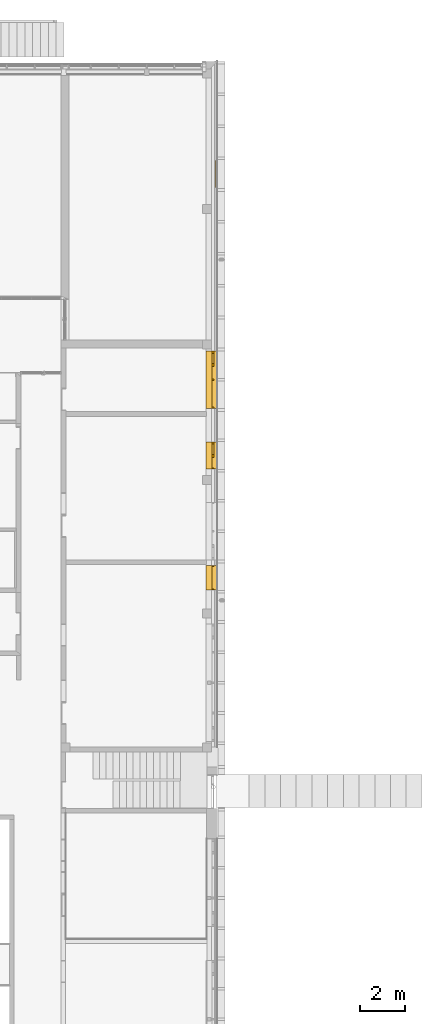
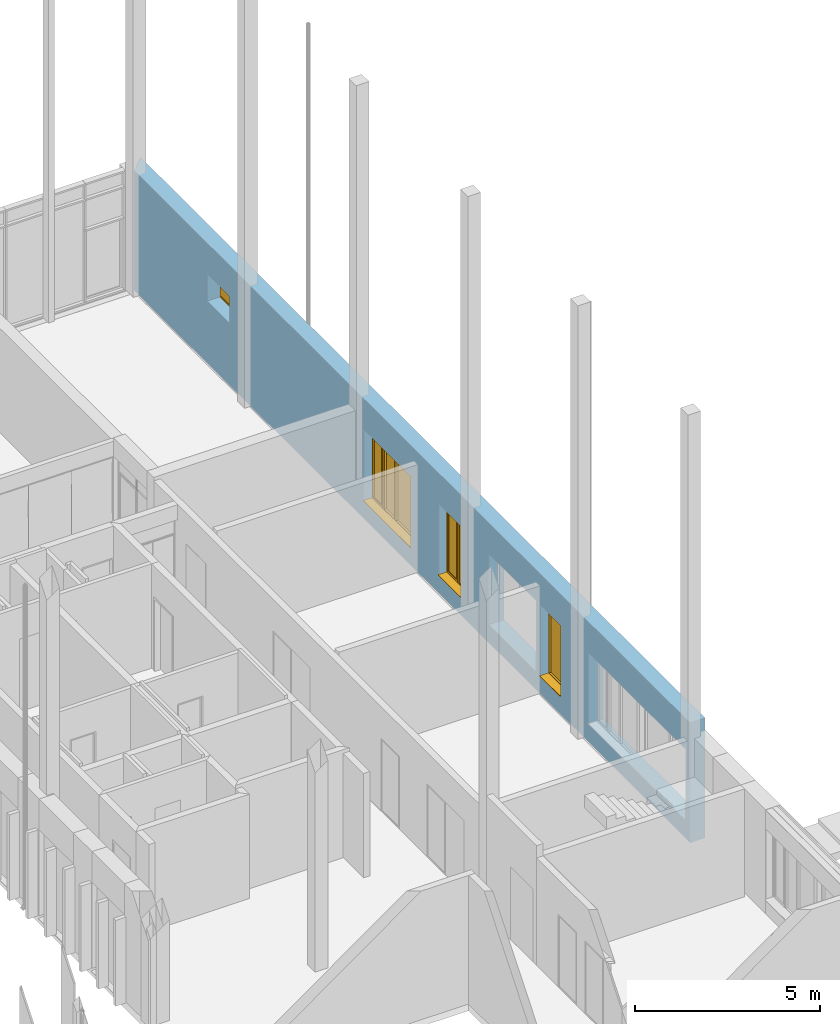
# One storey, part 42 of 89: 4 windows, 6 openings, plus 1 element that does not belong to this part.
"""IFC2X3 building model written with IfcOpenShell, lengths in millimetres."""

from ifc_helpers import new_model, entity, si_unit, converted_unit, derived_unit, money_unit, direction, frame, origin_with_axes, origin_2d_with_axis, place, context, subcontext, project, spatial, polyline, rectangle, outline, extrude, open_shell, faceted_brep, surface_model, material, layer, layer_set, layer_usage, type_object, element, fill, save


model = new_model("IFC2X3")

# Units and contexts
model_context = context("Model", 3, precision=0.01, world=origin_with_axes(), true_north=direction((0.0, 1.0)))
body_context = subcontext(model_context, "Body", "Model", "MODEL_VIEW")
ifc_project = project(units=[si_unit("LENGTHUNIT", "METRE", prefix="MILLI"), si_unit("AREAUNIT", "SQUARE_METRE"), si_unit("VOLUMEUNIT", "CUBIC_METRE"), converted_unit("PLANEANGLEUNIT", "DEGREE", entity("IfcPlaneAngleMeasure", 0.0174532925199), si_unit("PLANEANGLEUNIT", "RADIAN"), dimensions=[0, 0, 0, 0, 0, 0, 0]), si_unit("SOLIDANGLEUNIT", "STERADIAN"), money_unit("EUR"), converted_unit("TIMEUNIT", "Year", entity("IfcTimeMeasure", 31556926.0), si_unit("TIMEUNIT", "SECOND"), dimensions=[0, 0, 1, 0, 0, 0, 0]), si_unit("MASSUNIT", "GRAM", prefix="KILO"), si_unit("THERMODYNAMICTEMPERATUREUNIT", "DEGREE_CELSIUS"), si_unit("LUMINOUSINTENSITYUNIT", "LUMEN"), si_unit("ENERGYUNIT", "JOULE", prefix="MEGA"), derived_unit("THERMALCONDUCTANCEUNIT", [(si_unit("POWERUNIT", "WATT"), 1), (si_unit("LENGTHUNIT", "METRE"), -1), (si_unit("THERMODYNAMICTEMPERATUREUNIT", "KELVIN"), -1)]), derived_unit("SPECIFICHEATCAPACITYUNIT", [(si_unit("ENERGYUNIT", "JOULE"), 1), (si_unit("MASSUNIT", "GRAM", prefix="KILO"), -1), (si_unit("THERMODYNAMICTEMPERATUREUNIT", "KELVIN"), -1)]), derived_unit("MASSDENSITYUNIT", [(si_unit("MASSUNIT", "GRAM", prefix="KILO"), 1), (si_unit("VOLUMEUNIT", "CUBIC_METRE"), -1)])], contexts=[model_context])

# Site, building, storey
site_placement = place(None, origin_with_axes())
site = spatial("IfcSite", under=ifc_project, at=site_placement, Name="Puškini 31, Narva", CompositionType="ELEMENT")
building_placement = place(site_placement, origin_with_axes())
building = spatial("IfcBuilding", under=site, at=building_placement, Name="Narva Riigigümnaasium", CompositionType="ELEMENT")
storey_placement = place(building_placement, frame((0.0, 0.0, -3300.0), z_axis=(0.0, 0.0, 1.0), x_axis=(1.0, 0.0, 0.0)))
storey = spatial("IfcBuildingStorey", under=building, at=storey_placement, Name="1.korrus -3.3", CompositionType="ELEMENT", Elevation=-3300.0)

# Wall, openings, windows
ifc_material_1 = material(Name="fassaadiplaat")
ifc_layer_1 = layer(ifc_material_1, 8.0, ventilated="UNKNOWN")
ifc_material_2 = material(Name="Salto-roovitus")
ifc_layer_2 = layer(ifc_material_2, 50.0, ventilated="UNKNOWN")
ifc_material_3 = material(Name="Salto-PIR soojustus")
ifc_layer_3 = layer(ifc_material_3, 50.0, ventilated="UNKNOWN")
ifc_layer_4 = layer(ifc_material_3, 150.0, ventilated="UNKNOWN")
ifc_material_4 = material(Name="Betoon element")
ifc_layer_5 = layer(ifc_material_4, 200.0, ventilated="UNKNOWN")
ifc_material_5 = material(Name="Salto-siseviimistlus-seinad")
ifc_layer_6 = layer(ifc_material_5, 10.0, ventilated="UNKNOWN")
ifc_layer_set = layer_set([ifc_layer_1, ifc_layer_2, ifc_layer_3, ifc_layer_4, ifc_layer_5, ifc_layer_6], Name="G-VS-01")
ifc_layer_usage = layer_usage(ifc_layer_set, "AXIS2", "NEGATIVE", 458.0)
wall_type = type_object("IfcWallType", Name="G-VS-01 468", PredefinedType="NOTDEFINED")
wall_placement = place(storey_placement, frame((54000.0000017, 254108.805854, 0.0), z_axis=(0.0, 0.0, 1.0), x_axis=(0.0, -1.0, 0.0)))
wall = element("IfcWallStandardCase", 1, at=wall_placement, inside=storey, type_object=wall_type, material=ifc_layer_usage, Name="Välissein", context=body_context, shape_type="SweptSolid", body=[
    extrude(outline(polyline([(9.99999999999, -10.0), (30098.8058544, -10.0), (30098.8058544, 458.0), (-458.0, 458.0), (9.99999999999, -10.0)])), origin_with_axes(), (0.0, 0.0, 1.0), 3959.99999955),
])
opening_1_placement = place(wall_placement, frame((27228.5691061, 0.0, 600.0), z_axis=(0.0, 0.0, 1.0), x_axis=(1.0, 0.0, 0.0)))
element("IfcOpeningElement", 2, at=opening_1_placement, cuts=wall, Name="G-A-25", context=body_context, shape_type="SweptSolid", body=[
    extrude(rectangle(XDim=5250.0, YDim=2340.0, at=origin_2d_with_axis()), frame((0.0, 308.0, 1170.0), z_axis=(0.0, -1.0, 0.0), x_axis=(1.0, 0.0, 0.0)), (0.0, 0.0, 1.0), 786.0),
    extrude(rectangle(XDim=5250.0, YDim=2340.0, at=origin_2d_with_axis()), frame((0.0, 308.0, 1170.0), z_axis=(0.0, 1.0, 0.0), x_axis=(1.0, 0.0, 0.0)), (0.0, 0.0, 1.0), 618.0),
])
opening_2_placement = place(wall_placement, frame((20478.5691061, 0.0, 600.0), z_axis=(0.0, 0.0, 1.0), x_axis=(1.0, 0.0, 0.0)))
element("IfcOpeningElement", 3, at=opening_2_placement, cuts=wall, Name="G-A-15", context=body_context, shape_type="SweptSolid", body=[
    extrude(rectangle(XDim=2550.0, YDim=2340.0, at=origin_2d_with_axis()), frame((0.0, 308.0, 1170.0), z_axis=(0.0, 1.0, 0.0), x_axis=(-1.0, 0.0, 0.0)), (0.0, 0.0, -1.0), 786.0),
    extrude(rectangle(XDim=2550.0, YDim=2340.0, at=origin_2d_with_axis()), frame((0.0, 308.0, 1170.0), z_axis=(0.0, -1.0, 0.0), x_axis=(-1.0, 0.0, 0.0)), (0.0, 0.0, -1.0), 618.0),
])
opening_3_placement = place(wall_placement, frame((17103.5691061, 0.0, 600.0), z_axis=(0.0, 0.0, 1.0), x_axis=(1.0, 0.0, 0.0)))
opening_3 = element("IfcOpeningElement", 4, at=opening_3_placement, cuts=wall, Name="G-A-06", context=body_context, shape_type="SweptSolid", body=[
    extrude(rectangle(XDim=1200.0, YDim=2340.0, at=origin_2d_with_axis()), frame((0.0, 308.0, 1170.0), z_axis=(0.0, -1.0, 0.0), x_axis=(1.0, 0.0, 0.0)), (0.0, 0.0, 1.0), 786.0),
    extrude(rectangle(XDim=1200.0, YDim=2340.0, at=origin_2d_with_axis()), frame((0.0, 308.0, 1170.0), z_axis=(0.0, 1.0, 0.0), x_axis=(1.0, 0.0, 0.0)), (0.0, 0.0, 1.0), 618.0),
])
opening_4_placement = place(wall_placement, frame((13728.5691061, 0.0, 600.0), z_axis=(0.0, 0.0, 1.0), x_axis=(1.0, 0.0, 0.0)))
opening_4 = element("IfcOpeningElement", 5, at=opening_4_placement, cuts=wall, Name="G-A-15", context=body_context, shape_type="SweptSolid", body=[
    extrude(rectangle(XDim=2550.0, YDim=2340.0, at=origin_2d_with_axis()), frame((0.0, 308.0, 1170.0), z_axis=(0.0, -1.0, 0.0), x_axis=(1.0, 0.0, 0.0)), (0.0, 0.0, 1.0), 786.0),
    extrude(rectangle(XDim=2550.0, YDim=2340.0, at=origin_2d_with_axis()), frame((0.0, 308.0, 1170.0), z_axis=(0.0, 1.0, 0.0), x_axis=(1.0, 0.0, 0.0)), (0.0, 0.0, 1.0), 618.0),
])
opening_5_placement = place(wall_placement, frame((22553.5691061, 0.0, 600.0), z_axis=(0.0, 0.0, 1.0), x_axis=(1.0, 0.0, 0.0)))
opening_5 = element("IfcOpeningElement", 6, at=opening_5_placement, cuts=wall, Name="G-A-35", context=body_context, shape_type="SweptSolid", body=[
    extrude(rectangle(XDim=1100.0, YDim=2340.0, at=origin_2d_with_axis()), frame((0.0, 308.0, 1170.0), z_axis=(0.0, -1.0, 0.0), x_axis=(1.0, 0.0, 0.0)), (0.0, 0.0, 1.0), 786.0),
    extrude(rectangle(XDim=1100.0, YDim=2340.0, at=origin_2d_with_axis()), frame((0.0, 308.0, 1170.0), z_axis=(0.0, 1.0, 0.0), x_axis=(1.0, 0.0, 0.0)), (0.0, 0.0, 1.0), 618.0),
])
opening_6_placement = place(wall_placement, frame((4563.8084994, 0.0, 2049.99999046), z_axis=(0.0, 0.0, 1.0), x_axis=(1.0, 0.0, 0.0)))
opening_6 = element("IfcOpeningElement", 7, at=opening_6_placement, cuts=wall, Name="G-SL-02", context=body_context, shape_type="SweptSolid", body=[
    extrude(rectangle(XDim=1190.0, YDim=890.0, at=origin_2d_with_axis()), frame((0.0, -468.0, 445.0), z_axis=(0.0, -1.0, 0.0), x_axis=(-1.0, 0.0, 0.0)), (0.0, 0.0, -1.0), 1404.0),
])
window_style_1 = type_object("IfcWindowStyle", Name="Horizontal Multi-Sash Window 23", ConstructionType="NOTDEFINED", OperationType="SINGLE_PANEL", ParameterTakesPrecedence=False, Sizeable=False)
window_1_placement = place(opening_6_placement, frame((-595.0, 0.0, 0.0), z_axis=(0.0, 0.0, 1.0), x_axis=(1.0, 0.0, 0.0)))
window_1 = element("IfcWindow", 8, at=window_1_placement, inside=storey, type_object=window_style_1, Name="G-SL-02", ObjectType="WINDOW", OverallHeight=890.0, OverallWidth=1190.0, context=body_context, shape_type="Brep", body=[
    faceted_brep([(1150.0, 458.0, 840.0), (1150.0, 388.0, 840.0), (1140.0, 388.0, 840.0), (1140.0, 383.0, 840.0), (1190.0, 383.0, 840.0), (1190.0, 458.0, 840.0), (1150.0, 458.0, 50.0), (1150.0, 388.0, 50.0), (1140.0, 388.0, 50.0), (1140.0, 383.0, 50.0), (1190.0, 383.0, 50.0), (1190.0, 458.0, 50.0)], [[[0, 1, 2, 3, 4, 5]], [[1, 0, 6, 7]], [[8, 2, 1, 7]], [[2, 8, 9, 3]], [[4, 3, 9, 10]], [[5, 4, 10, 11]], [[6, 0, 5, 11]], [[7, 6, 11, 10, 9, 8]]]),
    faceted_brep([(50.0, 388.0, 840.0), (40.0, 388.0, 840.0), (40.0, 458.0, 840.0), (0.0, 458.0, 840.0), (0.0, 383.0, 840.0), (50.0, 383.0, 840.0), (50.0, 388.0, 50.0), (40.0, 388.0, 50.0), (40.0, 458.0, 50.0), (0.0, 458.0, 50.0), (0.0, 383.0, 50.0), (50.0, 383.0, 50.0)], [[[0, 1, 2, 3, 4, 5]], [[1, 0, 6, 7]], [[8, 2, 1, 7]], [[2, 8, 9, 3]], [[9, 10, 4, 3]], [[10, 11, 5, 4]], [[6, 0, 5, 11]], [[7, 6, 11, 10, 9, 8]]]),
    faceted_brep([(1150.0, 458.0, 840.0), (1150.0, 458.0, 850.0), (40.0, 458.0, 850.0), (40.0, 458.0, 840.0), (0.0, 458.0, 840.0), (0.0, 458.0, 890.0), (1190.0, 458.0, 890.0), (1190.0, 458.0, 840.0), (1150.0, 388.0, 840.0), (1150.0, 388.0, 850.0), (40.0, 388.0, 850.0), (40.0, 388.0, 840.0), (50.0, 388.0, 840.0), (50.0, 383.0, 840.0), (0.0, 383.0, 840.0), (0.0, 383.0, 890.0), (1190.0, 383.0, 890.0), (1190.0, 383.0, 840.0), (1140.0, 383.0, 840.0), (1140.0, 388.0, 840.0)], [[[0, 1, 2, 3, 4, 5, 6, 7]], [[1, 0, 8, 9]], [[2, 1, 9, 10]], [[3, 2, 10, 11]], [[11, 12, 13, 14, 4, 3]], [[4, 14, 15, 5]], [[5, 15, 16, 6]], [[6, 16, 17, 7]], [[8, 0, 7, 17, 18, 19]], [[12, 11, 10, 9, 8, 19]], [[12, 19, 18, 13]], [[14, 13, 18, 17, 16, 15]]]),
    faceted_brep([(50.0, 388.0, 50.0), (40.0, 388.0, 50.0), (40.0, 458.0, 50.0), (0.0, 458.0, 50.0), (0.0, 383.0, 50.0), (50.0, 383.0, 50.0), (1140.0, 388.0, 50.0), (1150.0, 388.0, 50.0), (1150.0, 388.0, 40.0), (40.0, 388.0, 40.0), (40.0, 458.0, 40.0), (1150.0, 458.0, 40.0), (1150.0, 458.0, 50.0), (1190.0, 458.0, 50.0), (1190.0, 458.0, 0.0), (0.0, 458.0, 0.0), (0.0, 383.0, 0.0), (1190.0, 383.0, 50.0), (1140.0, 383.0, 50.0), (1190.0, 383.0, 0.0)], [[[0, 1, 2, 3, 4, 5]], [[1, 0, 6, 7, 8, 9]], [[10, 2, 1, 9]], [[11, 12, 13, 14, 15, 3, 2, 10]], [[15, 16, 4, 3]], [[17, 18, 5, 4, 16, 19]], [[6, 0, 5, 18]], [[7, 6, 18, 17, 13, 12]], [[7, 12, 11, 8]], [[11, 10, 9, 8]], [[13, 17, 19, 14]], [[14, 19, 16, 15]]]),
    faceted_brep([(1150.0, 388.0, 40.0), (40.0, 388.0, 40.0), (40.0, 473.0, 40.0), (1150.0, 473.0, 40.0), (1150.0, 388.0, 850.0), (40.0, 388.0, 850.0), (40.0, 473.0, 850.0), (1150.0, 473.0, 850.0)], [[[0, 1, 2, 3]], [[0, 4, 5, 1]], [[1, 5, 6, 2]], [[3, 2, 6, 7]], [[4, 0, 3, 7]], [[5, 4, 7, 6]]]),
])
fill(opening_6, window_1)
window_style_2 = type_object("IfcWindowStyle", Name="Window 23", ConstructionType="NOTDEFINED", OperationType="SINGLE_PANEL", ParameterTakesPrecedence=False, Sizeable=False)
window_2_placement = place(opening_5_placement, frame((550.0, 0.0, 0.0), z_axis=(0.0, 0.0, 1.0), x_axis=(-1.0, 0.0, 0.0)))
window_2 = element("IfcWindow", 9, at=window_2_placement, inside=storey, type_object=window_style_2, Name="G-A-35", ObjectType="WINDOW", OverallHeight=2340.0, OverallWidth=1100.0, context=body_context, shape_type="SurfaceModel", body=[
    surface_model("IfcShellBasedSurfaceModel", [(1100.0, -309.0, 50.0), (0.0, -309.0, 50.0), (0.0, -309.0, 40.0), (1100.0, -309.0, 40.0), (0.0, -488.0, 28.0), (1100.0, -488.0, 28.0), (0.0, -488.0, 8.0), (1100.0, -488.0, 8.0), (0.0, -478.0, 18.0), (1100.0, -478.0, 18.0)], [open_shell([[[0, 1, 2, 3]], [[3, 2, 4, 5]], [[5, 4, 6, 7]], [[7, 6, 8, 9]]])]),
    faceted_brep([(0.0, -233.0, 0.0), (0.0, -233.0, 25.0), (0.0, 10.0, 25.0), (0.0, 10.0, 0.0), (1100.0, -233.0, 0.0), (1100.0, -233.0, 25.0), (1100.0, 10.0, 25.0), (1100.0, 40.0, 25.0), (0.0, 40.0, 25.0), (0.0, 40.0, 0.0), (1100.0, 40.0, 0.0), (1100.0, 10.0, 0.0)], [[[0, 1, 2, 3]], [[4, 5, 1, 0]], [[1, 5, 6, 7, 8, 2]], [[3, 2, 8, 9]], [[0, 3, 9, 10, 11, 4]], [[11, 6, 5, 4]], [[10, 7, 6, 11]], [[9, 8, 7, 10]]]),
    faceted_brep([(1050.0, -308.0, 2290.0), (1100.0, -308.0, 2290.0), (1100.0, -233.0, 2290.0), (1050.0, -233.0, 2290.0), (1050.0, -308.0, 50.0), (1100.0, -308.0, 50.0), (1100.0, -233.0, 50.0), (1050.0, -233.0, 50.0)], [[[0, 1, 2, 3]], [[0, 4, 5, 1]], [[1, 5, 6, 2]], [[3, 2, 6, 7]], [[4, 0, 3, 7]], [[5, 4, 7, 6]]]),
    faceted_brep([(50.0, -308.0, 50.0), (0.0, -308.0, 50.0), (0.0, -233.0, 50.0), (50.0, -233.0, 50.0), (50.0, -308.0, 2290.0), (0.0, -308.0, 2290.0), (0.0, -233.0, 2290.0), (50.0, -233.0, 2290.0)], [[[0, 1, 2, 3]], [[0, 4, 5, 1]], [[1, 5, 6, 2]], [[3, 2, 6, 7]], [[4, 0, 3, 7]], [[5, 4, 7, 6]]]),
    faceted_brep([(1050.0, -308.0, 50.0), (1100.0, -308.0, 50.0), (1100.0, -233.0, 50.0), (1050.0, -233.0, 50.0), (50.0, -308.0, 50.0), (0.0, -308.0, 50.0), (0.0, -308.0, 0.0), (1100.0, -308.0, 0.0), (1100.0, -233.0, 0.0), (0.0, -233.0, 0.0), (0.0, -233.0, 50.0), (50.0, -233.0, 50.0)], [[[0, 1, 2, 3]], [[0, 4, 5, 6, 7, 1]], [[1, 7, 8, 2]], [[3, 2, 8, 9, 10, 11]], [[4, 0, 3, 11]], [[5, 4, 11, 10]], [[6, 5, 10, 9]], [[7, 6, 9, 8]]]),
    faceted_brep([(50.0, -308.0, 2290.0), (0.0, -308.0, 2290.0), (0.0, -233.0, 2290.0), (50.0, -233.0, 2290.0), (1050.0, -308.0, 2290.0), (1100.0, -308.0, 2290.0), (1100.0, -308.0, 2340.0), (0.0, -308.0, 2340.0), (0.0, -233.0, 2340.0), (1100.0, -233.0, 2340.0), (1100.0, -233.0, 2290.0), (1050.0, -233.0, 2290.0)], [[[0, 1, 2, 3]], [[0, 4, 5, 6, 7, 1]], [[1, 7, 8, 2]], [[3, 2, 8, 9, 10, 11]], [[4, 0, 3, 11]], [[5, 4, 11, 10]], [[6, 5, 10, 9]], [[7, 6, 9, 8]]]),
    surface_model("IfcShellBasedSurfaceModel", [(1050.0, -313.0, 50.0), (1050.0, -313.0, 2290.0), (50.0, -313.0, 2290.0), (50.0, -313.0, 50.0)], [open_shell([[[0, 1, 2, 3]]])]),
    surface_model("IfcShellBasedSurfaceModel", [(1050.0, -293.0, 50.0), (50.0, -293.0, 50.0), (50.0, -293.0, 2290.0), (1050.0, -293.0, 2290.0)], [open_shell([[[0, 1, 2, 3]]])]),
])
fill(opening_5, window_2)
window_style_3 = type_object("IfcWindowStyle", Name="Horizontal Multi-Sash Window 23", ConstructionType="NOTDEFINED", OperationType="DOUBLE_PANEL_VERTICAL", ParameterTakesPrecedence=False, Sizeable=False)
window_3_placement = place(opening_3_placement, frame((600.0, 0.0, 0.0), z_axis=(0.0, 0.0, 1.0), x_axis=(-1.0, 0.0, 0.0)))
window_3 = element("IfcWindow", 10, at=window_3_placement, inside=storey, type_object=window_style_3, Name="G-A-06", ObjectType="WINDOW", OverallHeight=2340.0, OverallWidth=1200.0, context=body_context, shape_type="SurfaceModel", body=[
    surface_model("IfcShellBasedSurfaceModel", [(1200.0, -309.0, 50.0), (0.0, -309.0, 50.0), (0.0, -309.0, 40.0), (1200.0, -309.0, 40.0), (0.0, -488.0, 28.0), (1200.0, -488.0, 28.0), (0.0, -488.0, 8.0), (1200.0, -488.0, 8.0), (0.0, -478.0, 18.0), (1200.0, -478.0, 18.0)], [open_shell([[[0, 1, 2, 3]], [[3, 2, 4, 5]], [[5, 4, 6, 7]], [[7, 6, 8, 9]]])]),
    faceted_brep([(0.0, -233.0, 0.0), (0.0, -233.0, 25.0), (0.0, 9.99999999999, 25.0), (0.0, 9.99999999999, 0.0), (1200.0, -233.0, 0.0), (1200.0, -233.0, 25.0), (1200.0, 9.99999999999, 25.0), (1200.0, 40.0, 25.0), (0.0, 40.0, 25.0), (0.0, 40.0, 0.0), (1200.0, 40.0, 0.0), (1200.0, 9.99999999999, 0.0)], [[[0, 1, 2, 3]], [[4, 5, 1, 0]], [[1, 5, 6, 7, 8, 2]], [[3, 2, 8, 9]], [[0, 3, 9, 10, 11, 4]], [[11, 6, 5, 4]], [[10, 7, 6, 11]], [[9, 8, 7, 10]]]),
    faceted_brep([(1160.0, -233.0, 2290.0), (1160.0, -303.0, 2290.0), (1150.0, -303.0, 2290.0), (1150.0, -308.0, 2290.0), (1200.0, -308.0, 2290.0), (1200.0, -233.0, 2290.0), (1160.0, -233.0, 50.0), (1160.0, -303.0, 50.0), (1150.0, -303.0, 50.0), (1150.0, -308.0, 50.0), (1200.0, -308.0, 50.0), (1200.0, -233.0, 50.0)], [[[0, 1, 2, 3, 4, 5]], [[1, 0, 6, 7]], [[8, 2, 1, 7]], [[2, 8, 9, 3]], [[4, 3, 9, 10]], [[5, 4, 10, 11]], [[6, 0, 5, 11]], [[7, 6, 11, 10, 9, 8]]]),
    faceted_brep([(1160.0, -233.0, 2290.0), (1160.0, -233.0, 2300.0), (577.5, -233.0, 2300.0), (577.5, -233.0, 2290.0), (512.5, -233.0, 2290.0), (50.0, -233.0, 2290.0), (0.0, -233.0, 2290.0), (0.0, -233.0, 2340.0), (1200.0, -233.0, 2340.0), (1200.0, -233.0, 2290.0), (1160.0, -303.0, 2290.0), (1160.0, -303.0, 2300.0), (577.5, -303.0, 2300.0), (577.5, -303.0, 2290.0), (587.5, -303.0, 2290.0), (587.5, -308.0, 2290.0), (512.5, -308.0, 2290.0), (50.0, -308.0, 2290.0), (0.0, -308.0, 2290.0), (0.0, -308.0, 2340.0), (1200.0, -308.0, 2340.0), (1200.0, -308.0, 2290.0), (1150.0, -308.0, 2290.0), (1150.0, -303.0, 2290.0)], [[[0, 1, 2, 3, 4, 5, 6, 7, 8, 9]], [[1, 0, 10, 11]], [[2, 1, 11, 12]], [[3, 2, 12, 13]], [[13, 14, 15, 16, 4, 3]], [[4, 16, 17, 5]], [[5, 17, 18, 6]], [[6, 18, 19, 7]], [[7, 19, 20, 8]], [[8, 20, 21, 9]], [[10, 0, 9, 21, 22, 23]], [[14, 13, 12, 11, 10, 23]], [[14, 23, 22, 15]], [[18, 17, 16, 15, 22, 21, 20, 19]]]),
    faceted_brep([(587.5, -303.0, 50.0), (577.5, -303.0, 50.0), (577.5, -233.0, 50.0), (512.5, -233.0, 50.0), (512.5, -308.0, 50.0), (587.5, -308.0, 50.0), (1150.0, -303.0, 50.0), (1160.0, -303.0, 50.0), (1160.0, -303.0, 40.0), (577.5, -303.0, 40.0), (577.5, -233.0, 40.0), (1160.0, -233.0, 40.0), (1160.0, -233.0, 50.0), (1200.0, -233.0, 50.0), (1200.0, -233.0, 0.0), (0.0, -233.0, 0.0), (0.0, -233.0, 50.0), (50.0, -233.0, 50.0), (50.0, -308.0, 50.0), (0.0, -308.0, 50.0), (0.0, -308.0, 0.0), (1200.0, -308.0, 0.0), (1200.0, -308.0, 50.0), (1150.0, -308.0, 50.0)], [[[0, 1, 2, 3, 4, 5]], [[1, 0, 6, 7, 8, 9]], [[10, 2, 1, 9]], [[11, 12, 13, 14, 15, 16, 17, 3, 2, 10]], [[17, 18, 4, 3]], [[5, 4, 18, 19, 20, 21, 22, 23]], [[6, 0, 5, 23]], [[7, 6, 23, 22, 13, 12]], [[7, 12, 11, 8]], [[11, 10, 9, 8]], [[13, 22, 21, 14]], [[14, 21, 20, 15]], [[15, 20, 19, 16]], [[16, 19, 18, 17]]]),
    faceted_brep([(587.5, -303.0, 2290.0), (577.5, -303.0, 2290.0), (577.5, -233.0, 2290.0), (512.5, -233.0, 2290.0), (512.5, -308.0, 2290.0), (587.5, -308.0, 2290.0), (587.5, -303.0, 50.0), (577.5, -303.0, 50.0), (577.5, -233.0, 50.0), (512.5, -233.0, 50.0), (512.5, -308.0, 50.0), (587.5, -308.0, 50.0)], [[[0, 1, 2, 3, 4, 5]], [[1, 0, 6, 7]], [[8, 2, 1, 7]], [[2, 8, 9, 3]], [[9, 10, 4, 3]], [[4, 10, 11, 5]], [[6, 0, 5, 11]], [[7, 6, 11, 10, 9, 8]]]),
    faceted_brep([(50.0, -308.0, 50.0), (0.0, -308.0, 50.0), (0.0, -233.0, 50.0), (50.0, -233.0, 50.0), (50.0, -308.0, 2290.0), (0.0, -308.0, 2290.0), (0.0, -233.0, 2290.0), (50.0, -233.0, 2290.0)], [[[0, 1, 2, 3]], [[0, 4, 5, 1]], [[1, 5, 6, 2]], [[3, 2, 6, 7]], [[4, 0, 3, 7]], [[5, 4, 7, 6]]]),
    faceted_brep([(1100.0, -303.0, 2240.0), (1160.0, -303.0, 2240.0), (1160.0, -218.0, 2240.0), (1100.0, -218.0, 2240.0), (1100.0, -303.0, 100.0), (1160.0, -303.0, 100.0), (1160.0, -218.0, 100.0), (1100.0, -218.0, 100.0)], [[[0, 1, 2, 3]], [[0, 4, 5, 1]], [[1, 5, 6, 2]], [[3, 2, 6, 7]], [[4, 0, 3, 7]], [[5, 4, 7, 6]]]),
    faceted_brep([(637.5, -303.0, 100.0), (577.5, -303.0, 100.0), (577.5, -218.0, 100.0), (637.5, -218.0, 100.0), (637.5, -303.0, 2240.0), (577.5, -303.0, 2240.0), (577.5, -218.0, 2240.0), (637.5, -218.0, 2240.0)], [[[0, 1, 2, 3]], [[0, 4, 5, 1]], [[1, 5, 6, 2]], [[3, 2, 6, 7]], [[4, 0, 3, 7]], [[5, 4, 7, 6]]]),
    faceted_brep([(577.5, -303.0, 40.0), (577.5, -303.0, 100.0), (577.5, -218.0, 100.0), (577.5, -218.0, 40.0), (1160.0, -303.0, 40.0), (1160.0, -303.0, 100.0), (1100.0, -303.0, 100.0), (637.5, -303.0, 100.0), (637.5, -218.0, 100.0), (1100.0, -218.0, 100.0), (1160.0, -218.0, 100.0), (1160.0, -218.0, 40.0)], [[[0, 1, 2, 3]], [[0, 4, 5, 6, 7, 1]], [[1, 7, 8, 2]], [[3, 2, 8, 9, 10, 11]], [[4, 0, 3, 11]], [[5, 4, 11, 10]], [[6, 5, 10, 9]], [[7, 6, 9, 8]]]),
    faceted_brep([(1160.0, -303.0, 2300.0), (1160.0, -303.0, 2240.0), (1160.0, -218.0, 2240.0), (1160.0, -218.0, 2300.0), (577.5, -303.0, 2300.0), (577.5, -303.0, 2240.0), (637.5, -303.0, 2240.0), (1100.0, -303.0, 2240.0), (1100.0, -218.0, 2240.0), (637.5, -218.0, 2240.0), (577.5, -218.0, 2240.0), (577.5, -218.0, 2300.0)], [[[0, 1, 2, 3]], [[0, 4, 5, 6, 7, 1]], [[1, 7, 8, 2]], [[3, 2, 8, 9, 10, 11]], [[4, 0, 3, 11]], [[5, 4, 11, 10]], [[6, 5, 10, 9]], [[7, 6, 9, 8]]]),
    surface_model("IfcShellBasedSurfaceModel", [(1100.0, -270.5, 100.0), (1100.0, -270.5, 2240.0), (637.5, -270.5, 2240.0), (637.5, -270.5, 100.0)], [open_shell([[[0, 1, 2, 3]]])]),
    surface_model("IfcShellBasedSurfaceModel", [(1100.0, -250.5, 100.0), (637.5, -250.5, 100.0), (637.5, -250.5, 2240.0), (1100.0, -250.5, 2240.0)], [open_shell([[[0, 1, 2, 3]]])]),
    surface_model("IfcShellBasedSurfaceModel", [(512.5, -313.0, 50.0), (512.5, -313.0, 2290.0), (50.0, -313.0, 2290.0), (50.0, -313.0, 50.0)], [open_shell([[[0, 1, 2, 3]]])]),
    surface_model("IfcShellBasedSurfaceModel", [(512.5, -293.0, 50.0), (50.0, -293.0, 50.0), (50.0, -293.0, 2290.0), (512.5, -293.0, 2290.0)], [open_shell([[[0, 1, 2, 3]]])]),
])
fill(opening_3, window_3)
window_style_4 = type_object("IfcWindowStyle", Name="Horizontal Multi-Sash Window 23", ConstructionType="NOTDEFINED", OperationType="TRIPLE_PANEL_VERTICAL", ParameterTakesPrecedence=False, Sizeable=False)
window_4_placement = place(opening_4_placement, frame((1275.0, 0.0, 0.0), z_axis=(0.0, 0.0, 1.0), x_axis=(-1.0, 0.0, 0.0)))
window_4 = element("IfcWindow", 11, at=window_4_placement, inside=storey, type_object=window_style_4, Name="G-A-15", ObjectType="WINDOW", OverallHeight=2340.0, OverallWidth=2550.0, context=body_context, shape_type="SurfaceModel", body=[
    surface_model("IfcShellBasedSurfaceModel", [(2550.0, -309.0, 50.0), (0.0, -309.0, 50.0), (0.0, -309.0, 40.0), (2550.0, -309.0, 40.0), (0.0, -488.0, 28.0), (2550.0, -488.0, 28.0), (0.0, -488.0, 8.0), (2550.0, -488.0, 8.0), (0.0, -478.0, 18.0), (2550.0, -478.0, 18.0)], [open_shell([[[0, 1, 2, 3]], [[3, 2, 4, 5]], [[5, 4, 6, 7]], [[7, 6, 8, 9]]])]),
    faceted_brep([(0.0, -233.0, 0.0), (0.0, -233.0, 25.0), (0.0, 10.0, 25.0), (0.0, 10.0, 0.0), (2550.0, -233.0, 0.0), (2550.0, -233.0, 25.0), (2550.0, 10.0, 25.0), (2550.0, 40.0, 25.0), (0.0, 40.0, 25.0), (0.0, 40.0, 0.0), (2550.0, 40.0, 0.0), (2550.0, 10.0, 0.0)], [[[0, 1, 2, 3]], [[4, 5, 1, 0]], [[1, 5, 6, 7, 8, 2]], [[3, 2, 8, 9]], [[0, 3, 9, 10, 11, 4]], [[11, 6, 5, 4]], [[10, 7, 6, 11]], [[9, 8, 7, 10]]]),
    faceted_brep([(2510.0, -233.0, 2290.0), (2510.0, -303.0, 2290.0), (2500.0, -303.0, 2290.0), (2500.0, -308.0, 2290.0), (2550.0, -308.0, 2290.0), (2550.0, -233.0, 2290.0), (2510.0, -233.0, 50.0), (2510.0, -303.0, 50.0), (2500.0, -303.0, 50.0), (2500.0, -308.0, 50.0), (2550.0, -308.0, 50.0), (2550.0, -233.0, 50.0)], [[[0, 1, 2, 3, 4, 5]], [[1, 0, 6, 7]], [[8, 2, 1, 7]], [[2, 8, 9, 3]], [[4, 3, 9, 10]], [[5, 4, 10, 11]], [[6, 0, 5, 11]], [[7, 6, 11, 10, 9, 8]]]),
    faceted_brep([(2510.0, -233.0, 2290.0), (2510.0, -233.0, 2300.0), (1939.5, -233.0, 2300.0), (1939.5, -233.0, 2290.0), (1874.5, -233.0, 2290.0), (1312.5, -233.0, 2290.0), (1237.5, -233.0, 2290.0), (50.0, -233.0, 2290.0), (0.0, -233.0, 2290.0), (0.0, -233.0, 2340.0), (2550.0, -233.0, 2340.0), (2550.0, -233.0, 2290.0), (2510.0, -303.0, 2290.0), (2510.0, -303.0, 2300.0), (1939.5, -303.0, 2300.0), (1939.5, -303.0, 2290.0), (1949.5, -303.0, 2290.0), (1949.5, -308.0, 2290.0), (1874.5, -308.0, 2290.0), (1312.5, -308.0, 2290.0), (1237.5, -308.0, 2290.0), (50.0, -308.0, 2290.0), (0.0, -308.0, 2290.0), (0.0, -308.0, 2340.0), (2550.0, -308.0, 2340.0), (2550.0, -308.0, 2290.0), (2500.0, -308.0, 2290.0), (2500.0, -303.0, 2290.0)], [[[0, 1, 2, 3, 4, 5, 6, 7, 8, 9, 10, 11]], [[1, 0, 12, 13]], [[2, 1, 13, 14]], [[3, 2, 14, 15]], [[15, 16, 17, 18, 4, 3]], [[4, 18, 19, 5]], [[5, 19, 20, 6]], [[6, 20, 21, 7]], [[7, 21, 22, 8]], [[8, 22, 23, 9]], [[9, 23, 24, 10]], [[10, 24, 25, 11]], [[12, 0, 11, 25, 26, 27]], [[16, 15, 14, 13, 12, 27]], [[16, 27, 26, 17]], [[22, 21, 20, 19, 18, 17, 26, 25, 24, 23]]]),
    faceted_brep([(1949.5, -303.0, 50.0), (1939.5, -303.0, 50.0), (1939.5, -233.0, 50.0), (1874.5, -233.0, 50.0), (1874.5, -308.0, 50.0), (1949.5, -308.0, 50.0), (2500.0, -303.0, 50.0), (2510.0, -303.0, 50.0), (2510.0, -303.0, 40.0), (1939.5, -303.0, 40.0), (1939.5, -233.0, 40.0), (2510.0, -233.0, 40.0), (2510.0, -233.0, 50.0), (2550.0, -233.0, 50.0), (2550.0, -233.0, 0.0), (0.0, -233.0, 0.0), (0.0, -233.0, 50.0), (50.0, -233.0, 50.0), (1237.5, -233.0, 50.0), (1312.5, -233.0, 50.0), (1312.5, -308.0, 50.0), (1237.5, -308.0, 50.0), (50.0, -308.0, 50.0), (0.0, -308.0, 50.0), (0.0, -308.0, 0.0), (2550.0, -308.0, 0.0), (2550.0, -308.0, 50.0), (2500.0, -308.0, 50.0)], [[[0, 1, 2, 3, 4, 5]], [[1, 0, 6, 7, 8, 9]], [[10, 2, 1, 9]], [[11, 12, 13, 14, 15, 16, 17, 18, 19, 3, 2, 10]], [[19, 20, 4, 3]], [[20, 21, 22, 23, 24, 25, 26, 27, 5, 4]], [[6, 0, 5, 27]], [[7, 6, 27, 26, 13, 12]], [[7, 12, 11, 8]], [[11, 10, 9, 8]], [[13, 26, 25, 14]], [[14, 25, 24, 15]], [[15, 24, 23, 16]], [[16, 23, 22, 17]], [[17, 22, 21, 18]], [[18, 21, 20, 19]]]),
    faceted_brep([(1949.5, -303.0, 2290.0), (1939.5, -303.0, 2290.0), (1939.5, -233.0, 2290.0), (1874.5, -233.0, 2290.0), (1874.5, -308.0, 2290.0), (1949.5, -308.0, 2290.0), (1949.5, -303.0, 50.0), (1939.5, -303.0, 50.0), (1939.5, -233.0, 50.0), (1874.5, -233.0, 50.0), (1874.5, -308.0, 50.0), (1949.5, -308.0, 50.0)], [[[0, 1, 2, 3, 4, 5]], [[1, 0, 6, 7]], [[8, 2, 1, 7]], [[2, 8, 9, 3]], [[9, 10, 4, 3]], [[4, 10, 11, 5]], [[6, 0, 5, 11]], [[7, 6, 11, 10, 9, 8]]]),
    faceted_brep([(50.0, -308.0, 50.0), (0.0, -308.0, 50.0), (0.0, -233.0, 50.0), (50.0, -233.0, 50.0), (50.0, -308.0, 2290.0), (0.0, -308.0, 2290.0), (0.0, -233.0, 2290.0), (50.0, -233.0, 2290.0)], [[[0, 1, 2, 3]], [[0, 4, 5, 1]], [[1, 5, 6, 2]], [[3, 2, 6, 7]], [[4, 0, 3, 7]], [[5, 4, 7, 6]]]),
    faceted_brep([(1237.5, -308.0, 50.0), (1237.5, -308.0, 2290.0), (1237.5, -233.0, 2290.0), (1237.5, -233.0, 50.0), (1312.5, -308.0, 50.0), (1312.5, -308.0, 2290.0), (1312.5, -233.0, 2290.0), (1312.5, -233.0, 50.0)], [[[0, 1, 2, 3]], [[0, 4, 5, 1]], [[1, 5, 6, 2]], [[3, 2, 6, 7]], [[4, 0, 3, 7]], [[5, 4, 7, 6]]]),
    faceted_brep([(2450.0, -303.0, 2240.0), (2510.0, -303.0, 2240.0), (2510.0, -218.0, 2240.0), (2450.0, -218.0, 2240.0), (2450.0, -303.0, 100.0), (2510.0, -303.0, 100.0), (2510.0, -218.0, 100.0), (2450.0, -218.0, 100.0)], [[[0, 1, 2, 3]], [[0, 4, 5, 1]], [[1, 5, 6, 2]], [[3, 2, 6, 7]], [[4, 0, 3, 7]], [[5, 4, 7, 6]]]),
    faceted_brep([(1999.5, -303.0, 100.0), (1939.5, -303.0, 100.0), (1939.5, -218.0, 100.0), (1999.5, -218.0, 100.0), (1999.5, -303.0, 2240.0), (1939.5, -303.0, 2240.0), (1939.5, -218.0, 2240.0), (1999.5, -218.0, 2240.0)], [[[0, 1, 2, 3]], [[0, 4, 5, 1]], [[1, 5, 6, 2]], [[3, 2, 6, 7]], [[4, 0, 3, 7]], [[5, 4, 7, 6]]]),
    faceted_brep([(1939.5, -303.0, 40.0), (1939.5, -303.0, 100.0), (1939.5, -218.0, 100.0), (1939.5, -218.0, 40.0), (2510.0, -303.0, 40.0), (2510.0, -303.0, 100.0), (2450.0, -303.0, 100.0), (1999.5, -303.0, 100.0), (1999.5, -218.0, 100.0), (2450.0, -218.0, 100.0), (2510.0, -218.0, 100.0), (2510.0, -218.0, 40.0)], [[[0, 1, 2, 3]], [[0, 4, 5, 6, 7, 1]], [[1, 7, 8, 2]], [[3, 2, 8, 9, 10, 11]], [[4, 0, 3, 11]], [[5, 4, 11, 10]], [[6, 5, 10, 9]], [[7, 6, 9, 8]]]),
    faceted_brep([(2510.0, -303.0, 2300.0), (2510.0, -303.0, 2240.0), (2510.0, -218.0, 2240.0), (2510.0, -218.0, 2300.0), (1939.5, -303.0, 2300.0), (1939.5, -303.0, 2240.0), (1999.5, -303.0, 2240.0), (2450.0, -303.0, 2240.0), (2450.0, -218.0, 2240.0), (1999.5, -218.0, 2240.0), (1939.5, -218.0, 2240.0), (1939.5, -218.0, 2300.0)], [[[0, 1, 2, 3]], [[0, 4, 5, 6, 7, 1]], [[1, 7, 8, 2]], [[3, 2, 8, 9, 10, 11]], [[4, 0, 3, 11]], [[5, 4, 11, 10]], [[6, 5, 10, 9]], [[7, 6, 9, 8]]]),
    surface_model("IfcShellBasedSurfaceModel", [(2450.0, -270.5, 100.0), (2450.0, -270.5, 2240.0), (1999.5, -270.5, 2240.0), (1999.5, -270.5, 100.0)], [open_shell([[[0, 1, 2, 3]]])]),
    surface_model("IfcShellBasedSurfaceModel", [(2450.0, -250.5, 100.0), (1999.5, -250.5, 100.0), (1999.5, -250.5, 2240.0), (2450.0, -250.5, 2240.0)], [open_shell([[[0, 1, 2, 3]]])]),
    surface_model("IfcShellBasedSurfaceModel", [(1874.5, -313.0, 50.0), (1874.5, -313.0, 2290.0), (1312.5, -313.0, 2290.0), (1312.5, -313.0, 50.0)], [open_shell([[[0, 1, 2, 3]]])]),
    surface_model("IfcShellBasedSurfaceModel", [(1874.5, -293.0, 50.0), (1312.5, -293.0, 50.0), (1312.5, -293.0, 2290.0), (1874.5, -293.0, 2290.0)], [open_shell([[[0, 1, 2, 3]]])]),
    surface_model("IfcShellBasedSurfaceModel", [(1237.5, -313.0, 50.0), (1237.5, -313.0, 2290.0), (50.0, -313.0, 2290.0), (50.0, -313.0, 50.0)], [open_shell([[[0, 1, 2, 3]]])]),
    surface_model("IfcShellBasedSurfaceModel", [(1237.5, -293.0, 50.0), (50.0, -293.0, 50.0), (50.0, -293.0, 2290.0), (1237.5, -293.0, 2290.0)], [open_shell([[[0, 1, 2, 3]]])]),
])
fill(opening_4, window_4)

save(model, "model.ifc")
